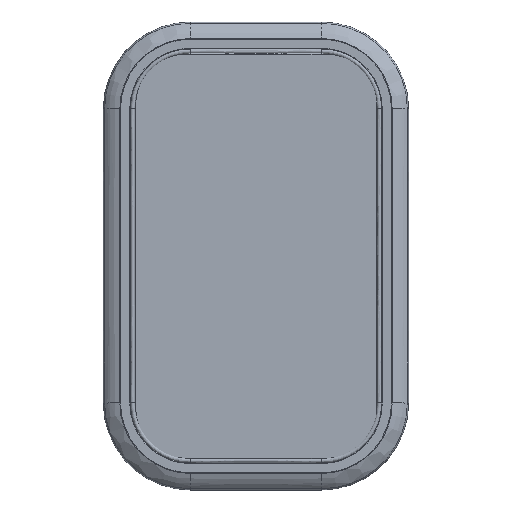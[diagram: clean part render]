
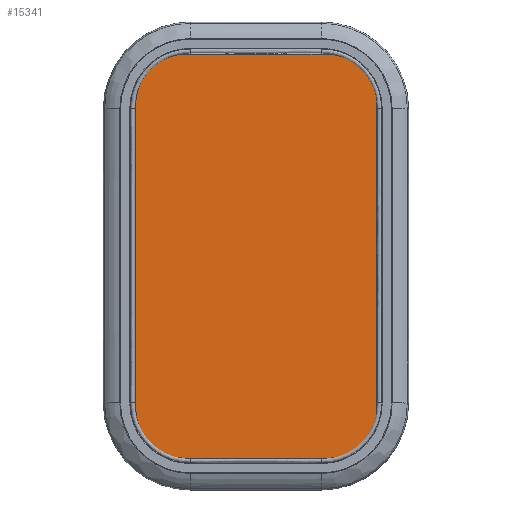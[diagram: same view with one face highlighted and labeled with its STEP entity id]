
A CAD part, top view. The second image highlights one B-rep face of the part: STEP entity #15341.
In plain terms, the highlighted planar face has unit normal (0, 0, 1) as drawn and (0, 1, 0) by its records, which use the part's own axes.
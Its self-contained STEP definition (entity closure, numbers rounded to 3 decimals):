
#14702=DIRECTION('',(-1.,0.,0.));
#14703=VECTOR('',#14702,271.);
#14704=CARTESIAN_POINT('',(135.5,6.,-107.5));
#14705=LINE('',#14704,#14703);
#14706=CARTESIAN_POINT('',(135.5,6.,-63.));
#14707=DIRECTION('',(0.,1.,0.));
#14708=DIRECTION('',(1.,0.,0.));
#14709=AXIS2_PLACEMENT_3D('',#14706,#14707,#14708);
#14711=DIRECTION('',(0.,0.,-1.));
#14712=VECTOR('',#14711,126.);
#14713=CARTESIAN_POINT('',(180.,6.,63.));
#14714=LINE('',#14713,#14712);
#14715=CARTESIAN_POINT('',(135.5,6.,63.));
#14716=DIRECTION('',(0.,1.,0.));
#14717=DIRECTION('',(0.,0.,1.));
#14718=AXIS2_PLACEMENT_3D('',#14715,#14716,#14717);
#14720=DIRECTION('',(1.,0.,0.));
#14721=VECTOR('',#14720,271.);
#14722=CARTESIAN_POINT('',(-135.5,6.,107.5));
#14723=LINE('',#14722,#14721);
#14724=CARTESIAN_POINT('',(-135.5,6.,63.));
#14725=DIRECTION('',(0.,1.,0.));
#14726=DIRECTION('',(-1.,0.,0.));
#14727=AXIS2_PLACEMENT_3D('',#14724,#14725,#14726);
#14729=DIRECTION('',(0.,0.,1.));
#14730=VECTOR('',#14729,126.);
#14731=CARTESIAN_POINT('',(-180.,6.,-63.));
#14732=LINE('',#14731,#14730);
#14733=CARTESIAN_POINT('',(-135.5,6.,-63.));
#14734=DIRECTION('',(0.,1.,0.));
#14735=DIRECTION('',(0.,0.,-1.));
#14736=AXIS2_PLACEMENT_3D('',#14733,#14734,#14735);
#15266=CARTESIAN_POINT('',(135.5,6.,-107.5));
#15267=CARTESIAN_POINT('',(-135.5,6.,-107.5));
#15268=VERTEX_POINT('',#15266);
#15269=VERTEX_POINT('',#15267);
#15270=CARTESIAN_POINT('',(-180.,6.,-63.));
#15271=VERTEX_POINT('',#15270);
#15272=CARTESIAN_POINT('',(-180.,6.,63.));
#15273=VERTEX_POINT('',#15272);
#15274=CARTESIAN_POINT('',(-135.5,6.,107.5));
#15275=VERTEX_POINT('',#15274);
#15276=CARTESIAN_POINT('',(135.5,6.,107.5));
#15277=VERTEX_POINT('',#15276);
#15278=CARTESIAN_POINT('',(180.,6.,63.));
#15279=VERTEX_POINT('',#15278);
#15280=CARTESIAN_POINT('',(180.,6.,-63.));
#15281=VERTEX_POINT('',#15280);
#15318=CARTESIAN_POINT('',(0.,6.,0.));
#15319=DIRECTION('',(0.,1.,0.));
#15320=DIRECTION('',(1.,0.,0.));
#15321=AXIS2_PLACEMENT_3D('',#15318,#15319,#15320);
#15322=PLANE('',#15321);
#15324=ORIENTED_EDGE('',*,*,#15323,.F.);
#15326=ORIENTED_EDGE('',*,*,#15325,.F.);
#15328=ORIENTED_EDGE('',*,*,#15327,.F.);
#15330=ORIENTED_EDGE('',*,*,#15329,.F.);
#15332=ORIENTED_EDGE('',*,*,#15331,.F.);
#15334=ORIENTED_EDGE('',*,*,#15333,.F.);
#15336=ORIENTED_EDGE('',*,*,#15335,.F.);
#15338=ORIENTED_EDGE('',*,*,#15337,.F.);
#15339=EDGE_LOOP('',(#15324,#15326,#15328,#15330,#15332,#15334,#15336,#15338));
#15340=FACE_OUTER_BOUND('',#15339,.F.);
#15341=ADVANCED_FACE('',(#15340),#15322,.T.);
#14710=CIRCLE('',#14709,44.5);
#14719=CIRCLE('',#14718,44.5);
#14728=CIRCLE('',#14727,44.5);
#14737=CIRCLE('',#14736,44.5);
#15323=EDGE_CURVE('',#15268,#15269,#14705,.T.);
#15325=EDGE_CURVE('',#15281,#15268,#14710,.T.);
#15327=EDGE_CURVE('',#15279,#15281,#14714,.T.);
#15329=EDGE_CURVE('',#15277,#15279,#14719,.T.);
#15331=EDGE_CURVE('',#15275,#15277,#14723,.T.);
#15333=EDGE_CURVE('',#15273,#15275,#14728,.T.);
#15335=EDGE_CURVE('',#15271,#15273,#14732,.T.);
#15337=EDGE_CURVE('',#15269,#15271,#14737,.T.);
